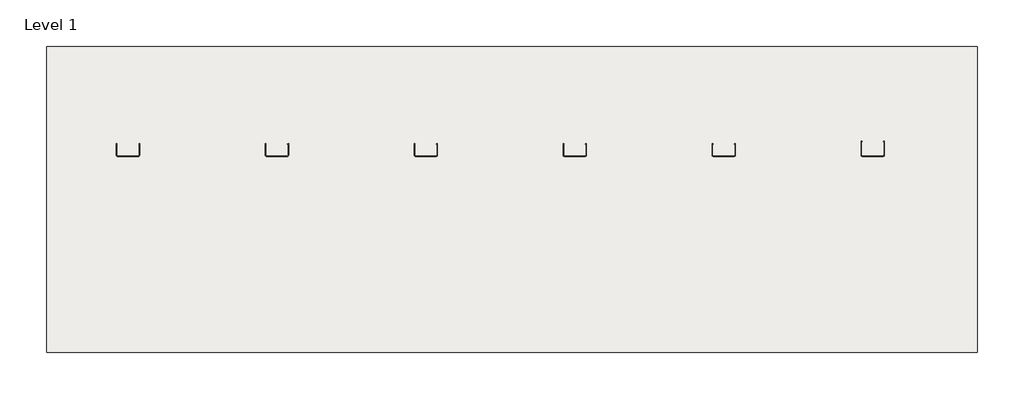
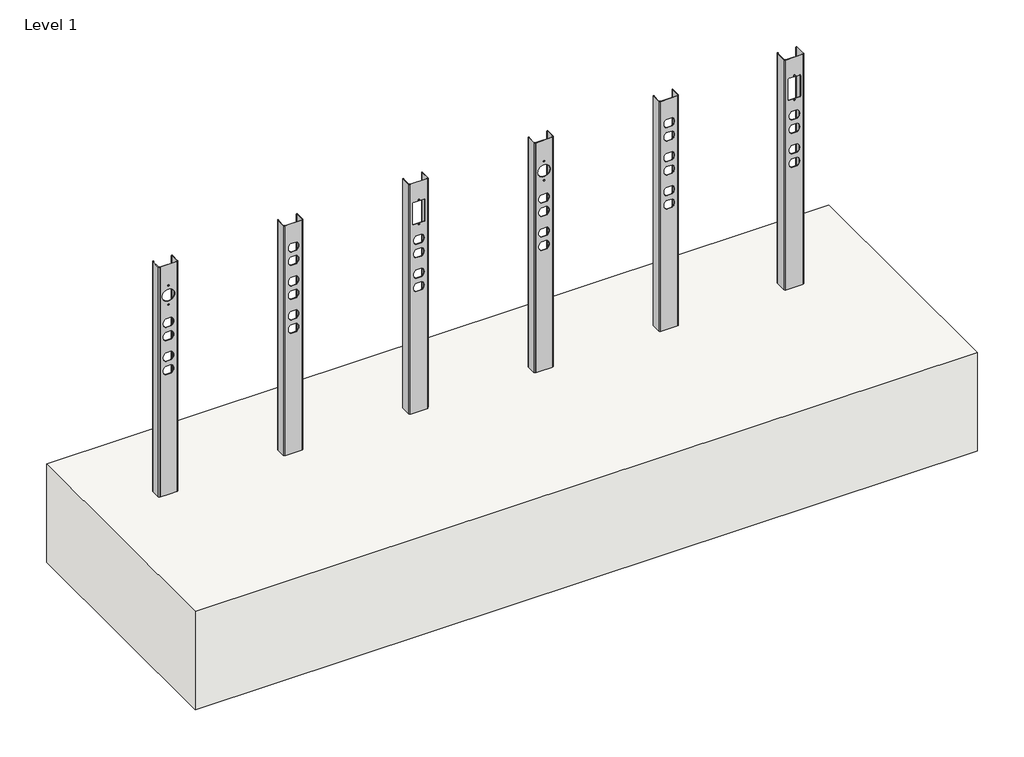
# One storey: 6 proxies, 1 slab.
"""IFC4 building model written with IfcOpenShell, lengths in millimetres."""

from ifc_helpers import new_model, si_unit, frame, origin, place, context, project, spatial, polyline, outline, extrude, transform, mapped, element, save
from components import electrical_fixtures_d45ce10f, electrical_fixtures_08506310, electrical_fixtures_af964e40, electrical_fixtures_3ee93755

model = new_model("IFC4")

# Units and contexts
model_context = context("Model", 3, world=origin())
ifc_project = project(units=[si_unit("LENGTHUNIT", "METRE", prefix="MILLI")], contexts=[model_context])

# Site, building, storey
site = spatial("IfcSite", under=ifc_project)
building = spatial("IfcBuilding", under=site)
storey = spatial("IfcBuildingStorey", under=building, Name="Level 1", Elevation=0.0)

# Proxies
placement = place(None, origin())
electrical_fixtures_shape = electrical_fixtures_d45ce10f(model_context)
element("IfcBuildingElementProxy", 1, Name="Accessory-Wiremold-Add-on_Power_Cover : AMDTP-A", ObjectType="Accessory-Wiremold-Add-on_Power_Cover : AMDTP-A", at=placement, inside=storey, context=model_context, shape_type="MappedRepresentation", body=[
    mapped(electrical_fixtures_shape, transform((3130.4342855, 1844.8753651, 0.0), x_axis=(1.0, 0.0, 0.0), y_axis=(0.0, 1.0, 0.0), z_axis=(0.0, 0.0, 1.0))),
])
electrical_fixtures_2_shape = electrical_fixtures_08506310(model_context)
element("IfcBuildingElementProxy", 2, Name="Accessory-Wiremold-Add-on_Power_Cover : AMDTP-B", ObjectType="Accessory-Wiremold-Add-on_Power_Cover : AMDTP-B", at=placement, inside=storey, context=model_context, shape_type="MappedRepresentation", body=[
    mapped(electrical_fixtures_2_shape, transform((3496.1942855, 1844.8753651, 0.0), x_axis=(1.0, 0.0, 0.0), y_axis=(0.0, 1.0, 0.0), z_axis=(0.0, 0.0, 1.0))),
])
electrical_fixtures_3_shape = electrical_fixtures_af964e40(model_context)
element("IfcBuildingElementProxy", 3, Name="Accessory-Wiremold-Add-on_Power_Cover : AMDTP-L", ObjectType="Accessory-Wiremold-Add-on_Power_Cover : AMDTP-L", at=placement, inside=storey, context=model_context, shape_type="MappedRepresentation", body=[
    mapped(electrical_fixtures_3_shape, transform((3861.9542855, 1844.8753651, 0.0), x_axis=(1.0, 0.0, 0.0), y_axis=(0.0, 1.0, 0.0), z_axis=(0.0, 0.0, 1.0))),
])
element("IfcBuildingElementProxy", 4, Name="Accessory-Wiremold-Add-on_Power_Cover : 25DTP-B", ObjectType="Accessory-Wiremold-Add-on_Power_Cover : 25DTP-B", at=placement, inside=storey, context=model_context, shape_type="MappedRepresentation", body=[
    mapped(electrical_fixtures_2_shape, transform((2398.9142855, 1844.8753651, 0.0), x_axis=(1.0, 0.0, 0.0), y_axis=(0.0, 1.0, 0.0), z_axis=(0.0, 0.0, 1.0))),
])
element("IfcBuildingElementProxy", 5, Name="Accessory-Wiremold-Add-on_Power_Cover : 25DTP-A", ObjectType="Accessory-Wiremold-Add-on_Power_Cover : 25DTP-A", at=placement, inside=storey, context=model_context, shape_type="MappedRepresentation", body=[
    mapped(electrical_fixtures_shape, transform((2033.1542855, 1844.8753651, 0.0), x_axis=(1.0, 0.0, 0.0), y_axis=(0.0, 1.0, 0.0), z_axis=(0.0, 0.0, 1.0))),
])
electrical_fixtures_4_shape = electrical_fixtures_3ee93755(model_context)
element("IfcBuildingElementProxy", 6, Name="Accessory-Wiremold-Add-on_Power_Cover : 25DTP-L", ObjectType="Accessory-Wiremold-Add-on_Power_Cover : 25DTP-L", at=placement, inside=storey, context=model_context, shape_type="MappedRepresentation", body=[
    mapped(electrical_fixtures_4_shape, transform((2764.6742855, 1844.8753651, 0.0), x_axis=(1.0, 0.0, 0.0), y_axis=(0.0, 1.0, 0.0), z_axis=(0.0, 0.0, 1.0))),
])

# Slab
element("IfcSlab", 7, ObjectType="Generic - 12\"", at=placement, inside=storey, context=model_context, shape_type="SweptSolid", body=[
    extrude(outline(polyline([(4119.1973575, 2115.5766815), (4119.1973575, 1364.094622), (1833.1973575, 1364.094622), (1833.1973575, 2115.5766815), (4119.1973575, 2115.5766815)])), frame((0.0, 0.0, -304.8), z_axis=(0.0, 0.0, 1.0), x_axis=(1.0, 0.0, 0.0)), (0.0, 0.0, 1.0), 304.8),
])

save(model, "model.ifc")
